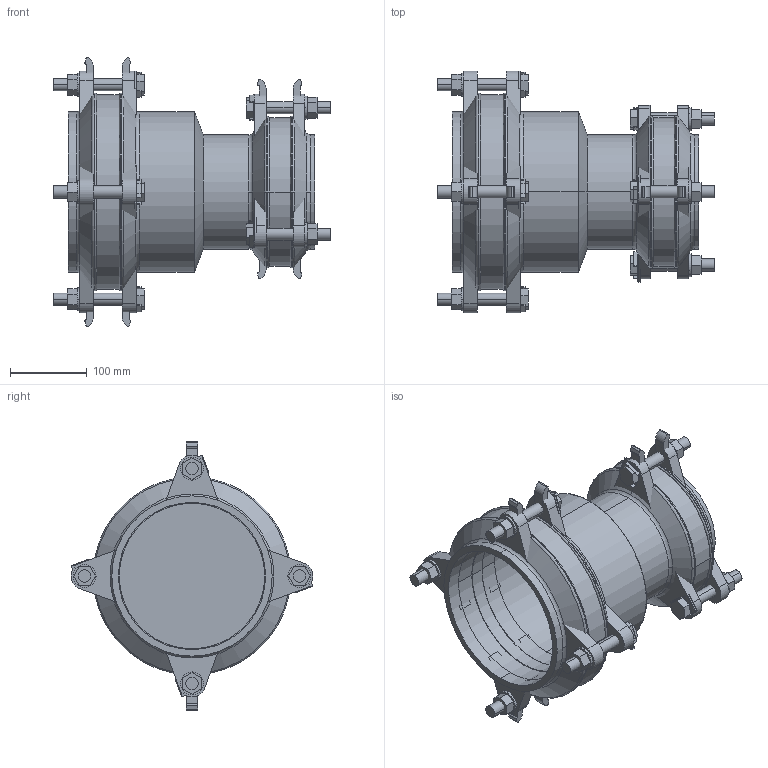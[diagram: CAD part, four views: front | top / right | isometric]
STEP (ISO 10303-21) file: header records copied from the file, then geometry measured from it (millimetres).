
FILE_DESCRIPTION(('STEP AP214'),'1');
FILE_NAME('MJ004944 DN 150-100.STP','2015-02-06T12:08:02',(' '),(' '),'Spatial InterOp 3D',' ',' ');
FILE_SCHEMA(('automotive_design'));
Length unit declared in the file: millimetre
Products named in the file (75): 3D-Objekt
Bounding box: 361 x 315.52 x 350 mm (x, y, z)
Volume: 3903789.3 mm3; surface area: 1021966.1 mm2
Topology: 75 solids, 75 shells, 585 faces, 1301 edges, 866 vertices
Faces by surface type: plane 400, cylinder 143, torus 24, cone 18
Entity records: 22660 total; most frequent: DIRECTION 3011, CARTESIAN_POINT 2827, ORIENTED_EDGE 2602, EDGE_CURVE 1301, AXIS2_PLACEMENT_3D 1050, LINE 911, VECTOR 911, VERTEX_POINT 866
